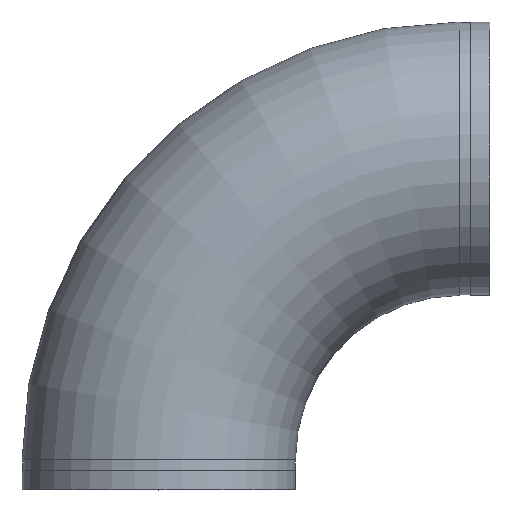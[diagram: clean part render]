
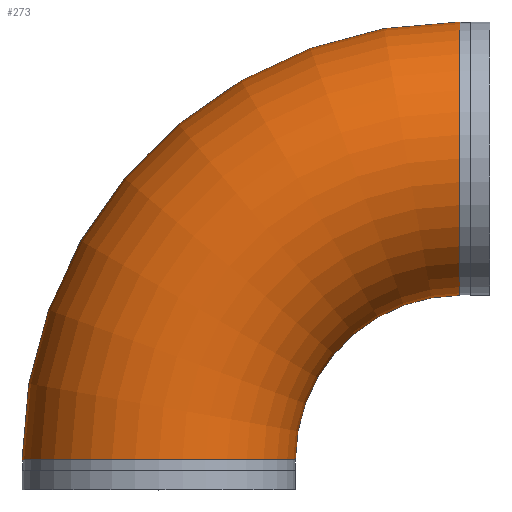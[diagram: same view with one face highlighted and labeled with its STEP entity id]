
A CAD part, top view. The second image highlights one B-rep face of the part: STEP entity #273.
In plain terms, the highlighted toroidal (fillet/blend) face has major radius 447.802 mm and minor radius 203.2 mm.
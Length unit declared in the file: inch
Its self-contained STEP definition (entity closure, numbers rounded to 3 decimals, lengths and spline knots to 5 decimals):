
#46=TOROIDAL_SURFACE('',#329,17.63,8.);
#81=FACE_OUTER_BOUND('',#99,.T.);
#99=EDGE_LOOP('',(#227,#228,#229,#230,#231,#232));
#105=CIRCLE('',#298,8.);
#106=CIRCLE('',#299,8.);
#117=CIRCLE('',#315,8.);
#118=CIRCLE('',#316,8.);
#127=CIRCLE('',#330,9.63);
#129=VERTEX_POINT('',#460);
#130=VERTEX_POINT('',#461);
#141=VERTEX_POINT('',#491);
#142=VERTEX_POINT('',#492);
#151=EDGE_CURVE('',#129,#130,#105,.T.);
#152=EDGE_CURVE('',#130,#129,#106,.T.);
#165=EDGE_CURVE('',#141,#142,#117,.T.);
#166=EDGE_CURVE('',#142,#141,#118,.T.);
#178=EDGE_CURVE('',#142,#130,#127,.T.);
#227=ORIENTED_EDGE('',*,*,#165,.F.);
#228=ORIENTED_EDGE('',*,*,#166,.F.);
#229=ORIENTED_EDGE('',*,*,#178,.T.);
#230=ORIENTED_EDGE('',*,*,#152,.T.);
#231=ORIENTED_EDGE('',*,*,#151,.T.);
#232=ORIENTED_EDGE('',*,*,#178,.F.);
#273=ADVANCED_FACE('',(#81),#46,.T.);
#298=AXIS2_PLACEMENT_3D('',#462,#352,#353);
#299=AXIS2_PLACEMENT_3D('',#463,#354,#355);
#315=AXIS2_PLACEMENT_3D('',#493,#388,#389);
#316=AXIS2_PLACEMENT_3D('',#494,#390,#391);
#329=AXIS2_PLACEMENT_3D('',#517,#419,#420);
#330=AXIS2_PLACEMENT_3D('',#518,#421,#422);
#352=DIRECTION('center_axis',(-1.,0.,0.));
#353=DIRECTION('ref_axis',(0.,-1.,0.));
#354=DIRECTION('center_axis',(-1.,0.,0.));
#355=DIRECTION('ref_axis',(0.,-1.,0.));
#388=DIRECTION('center_axis',(0.,-1.,0.));
#389=DIRECTION('ref_axis',(1.,0.,0.));
#390=DIRECTION('center_axis',(0.,-1.,0.));
#391=DIRECTION('ref_axis',(1.,0.,0.));
#419=DIRECTION('center_axis',(0.,0.,1.));
#420=DIRECTION('ref_axis',(1.,0.,0.));
#421=DIRECTION('center_axis',(0.,0.,-1.));
#422=DIRECTION('ref_axis',(1.,0.,0.));
#460=CARTESIAN_POINT('',(17.63,27.38,0.));
#461=CARTESIAN_POINT('',(17.63,11.38,0.));
#462=CARTESIAN_POINT('Origin',(17.63,19.38,0.));
#463=CARTESIAN_POINT('Origin',(17.63,19.38,0.));
#491=CARTESIAN_POINT('',(-8.,1.75,0.));
#492=CARTESIAN_POINT('',(8.,1.75,0.));
#493=CARTESIAN_POINT('Origin',(0.,1.75,0.));
#494=CARTESIAN_POINT('Origin',(0.,1.75,0.));
#517=CARTESIAN_POINT('Origin',(17.63,1.75,0.));
#518=CARTESIAN_POINT('Origin',(17.63,1.75,0.));
